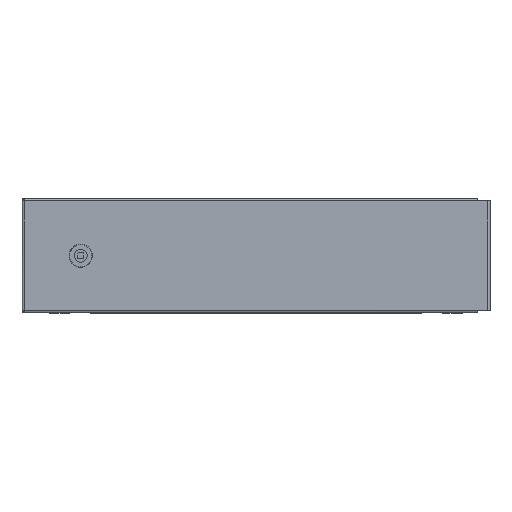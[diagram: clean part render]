
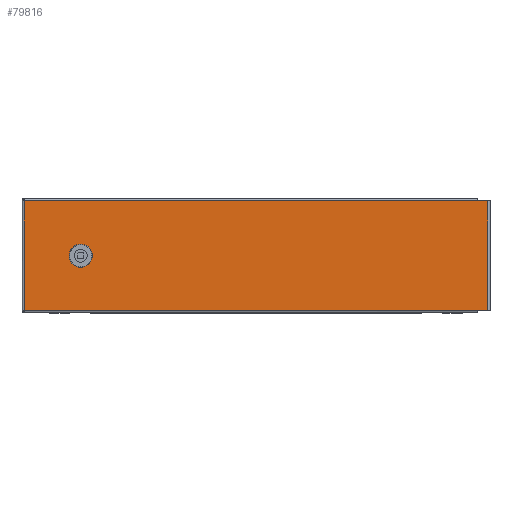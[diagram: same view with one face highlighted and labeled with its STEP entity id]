
A CAD part, top view. The second image highlights one B-rep face of the part: STEP entity #79816.
In plain terms, the highlighted planar face has unit normal (0, 0, 1).
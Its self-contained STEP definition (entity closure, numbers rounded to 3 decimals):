
#77401=CARTESIAN_POINT(' ',(578.,142.2,0.));
#77406=DIRECTION(' ',(-1.,0.,0.));
#77411=VECTOR(' ',#77406,1.);
#77416=LINE('',#77401,#77411);
#77421=CARTESIAN_POINT(' ',(578.,142.2,0.));
#77422=VERTEX_POINT(' ',#77421);
#77426=CARTESIAN_POINT(' ',(2.8,142.2,0.));
#77427=VERTEX_POINT(' ',#77426);
#77431=EDGE_CURVE(' ',#77422,#77427,#77416,.T.);
#79606=DIRECTION(' ',(-0.,-0.,1.));
#79611=CARTESIAN_POINT(' ',(591.2,2.8,0.));
#79616=DIRECTION(' ',(0.,1.,0.));
#79621=AXIS2_PLACEMENT_3D(' ',#79611,#79606,#79616);
#79626=PLANE('NONE',#79621);
#79631=CARTESIAN_POINT(' ',(2.8,2.8,0.));
#79636=DIRECTION(' ',(1.,0.,0.));
#79641=VECTOR(' ',#79636,1.);
#79646=LINE('',#79631,#79641);
#79651=CARTESIAN_POINT(' ',(2.8,2.8,0.));
#79652=VERTEX_POINT(' ',#79651);
#79656=CARTESIAN_POINT(' ',(578.,2.8,0.));
#79657=VERTEX_POINT(' ',#79656);
#79661=EDGE_CURVE(' ',#79652,#79657,#79646,.T.);
#79666=ORIENTED_EDGE(' ',*,*,#79661,.T.);
#79671=CARTESIAN_POINT(' ',(578.,2.8,0.));
#79676=DIRECTION(' ',(1.,0.,0.));
#79681=VECTOR(' ',#79676,1.);
#79686=LINE('',#79671,#79681);
#79691=CARTESIAN_POINT(' ',(591.2,2.8,0.));
#79692=VERTEX_POINT(' ',#79691);
#79696=EDGE_CURVE(' ',#79657,#79692,#79686,.T.);
#79701=ORIENTED_EDGE(' ',*,*,#79696,.T.);
#79706=CARTESIAN_POINT(' ',(591.2,142.2,0.));
#79711=DIRECTION(' ',(0.,-1.,0.));
#79716=VECTOR(' ',#79711,1.);
#79721=LINE('',#79706,#79716);
#79726=CARTESIAN_POINT(' ',(591.2,142.2,0.));
#79727=VERTEX_POINT(' ',#79726);
#79731=EDGE_CURVE(' ',#79727,#79692,#79721,.T.);
#79736=ORIENTED_EDGE(' ',*,*,#79731,.F.);
#79741=CARTESIAN_POINT(' ',(591.2,142.2,0.));
#79746=DIRECTION(' ',(-1.,0.,0.));
#79751=VECTOR(' ',#79746,1.);
#79756=LINE('',#79741,#79751);
#79761=EDGE_CURVE(' ',#79727,#77422,#79756,.T.);
#79766=ORIENTED_EDGE(' ',*,*,#79761,.T.);
#79771=ORIENTED_EDGE(' ',*,*,#77431,.T.);
#79776=CARTESIAN_POINT(' ',(2.8,142.2,0.));
#79781=DIRECTION(' ',(0.,-1.,0.));
#79786=VECTOR(' ',#79781,1.);
#79791=LINE('',#79776,#79786);
#79796=EDGE_CURVE(' ',#77427,#79652,#79791,.T.);
#79801=ORIENTED_EDGE(' ',*,*,#79796,.T.);
#79806=EDGE_LOOP(' ',(#79666,#79701,#79736,#79766,#79771,#79801));
#79811=FACE_OUTER_BOUND(' ',#79806,.T.);
#79816=ADVANCED_FACE('NONE',(#79811),#79626,.T.);
